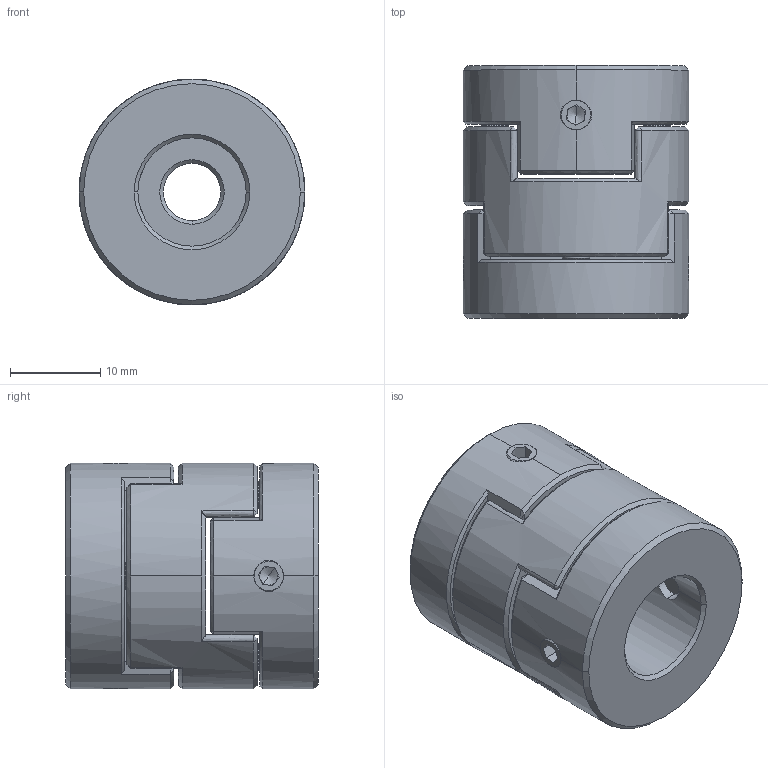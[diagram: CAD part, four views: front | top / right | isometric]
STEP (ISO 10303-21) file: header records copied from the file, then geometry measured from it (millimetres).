
FILE_DESCRIPTION (( 'STEP AP203' ), '1' );
FILE_NAME ('LZ-D-D25L28-6.35-12.STEP', '2021-10-30T02:15:58', ( '' ), ( '' ), 'SwSTEP 2.0', 'SolidWorks 2018', '' );
FILE_SCHEMA (( 'CONFIG_CONTROL_DESIGN' ));
Length unit declared in the file: millimetre
Products named in the file (1): LZ-D-D25L28-6.35-12
Bounding box: 25 x 28 x 25 mm (x, y, z)
Volume: 11023.9 mm3; surface area: 5526.2 mm2
Topology: 1 solids, 1 shells, 219 faces, 580 edges, 352 vertices
Faces by surface type: plane 89, cone 54, bspline 50, cylinder 26
Entity records: 9944 total; most frequent: CARTESIAN_POINT 4977, ORIENTED_EDGE 1144, DIRECTION 842, EDGE_CURVE 572, VERTEX_POINT 352, AXIS2_PLACEMENT_3D 306, EDGE_LOOP 234, VECTOR 230
